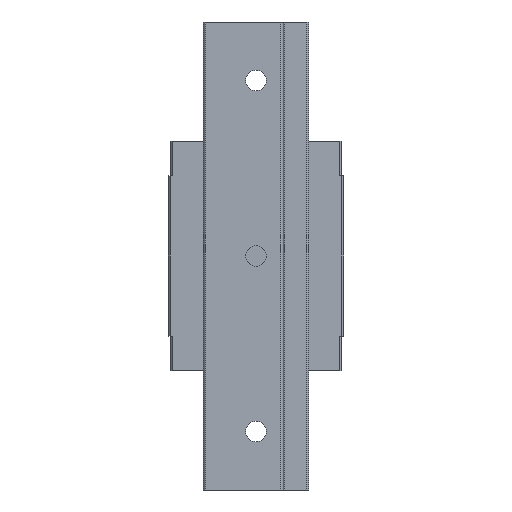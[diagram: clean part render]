
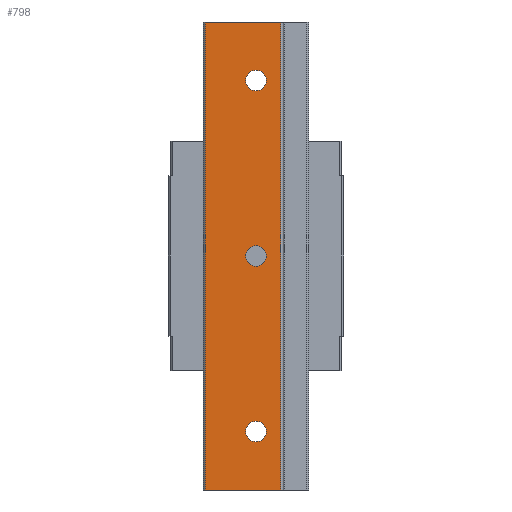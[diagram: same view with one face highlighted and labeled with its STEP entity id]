
A CAD part, front view. The second image highlights one B-rep face of the part: STEP entity #798.
In plain terms, the highlighted planar face has unit normal (0, -1, 0).
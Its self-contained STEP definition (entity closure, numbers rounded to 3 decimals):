
#53 = DIRECTION ( 'NONE',  ( 0., 0., 1. ) ) ;
#59 = VERTEX_POINT ( 'NONE', #3598 ) ;
#89 = DIRECTION ( 'NONE',  ( 0., -1., 0. ) ) ;
#119 = DIRECTION ( 'NONE',  ( 0., -1., 0. ) ) ;
#133 = ORIENTED_EDGE ( 'NONE', *, *, #1054, .F. ) ;
#166 = CIRCLE ( 'NONE', #2338, 1.75 ) ;
#244 = VECTOR ( 'NONE', #3470, 1000. ) ;
#325 = VERTEX_POINT ( 'NONE', #4054 ) ;
#342 = DIRECTION ( 'NONE',  ( 1., 0., 0. ) ) ;
#373 = LINE ( 'NONE', #3844, #244 ) ;
#374 = VERTEX_POINT ( 'NONE', #1986 ) ;
#391 = VERTEX_POINT ( 'NONE', #2128 ) ;
#422 = DIRECTION ( 'NONE',  ( -1., 0., 0. ) ) ;
#424 = EDGE_CURVE ( 'NONE', #818, #3696, #4067, .T. ) ;
#498 = CIRCLE ( 'NONE', #2449, 1.75 ) ;
#571 = PLANE ( 'NONE',  #1534 ) ;
#716 = CARTESIAN_POINT ( 'NONE',  ( 0., 0., 30. ) ) ;
#744 = VERTEX_POINT ( 'NONE', #3972 ) ;
#798 = ADVANCED_FACE ( 'NONE', ( #2284, #936, #884, #4355 ), #571, .F. ) ;
#818 = VERTEX_POINT ( 'NONE', #2790 ) ;
#836 = EDGE_CURVE ( 'NONE', #374, #391, #166, .T. ) ;
#842 = CARTESIAN_POINT ( 'NONE',  ( 0., 0., 30. ) ) ;
#884 = FACE_BOUND ( 'NONE', #2967, .T. ) ;
#910 = EDGE_LOOP ( 'NONE', ( #3300, #3179 ) ) ;
#922 = AXIS2_PLACEMENT_3D ( 'NONE', #842, #3581, #3950 ) ;
#936 = FACE_BOUND ( 'NONE', #910, .T. ) ;
#1010 = ORIENTED_EDGE ( 'NONE', *, *, #4492, .T. ) ;
#1054 = EDGE_CURVE ( 'NONE', #325, #59, #2459, .T. ) ;
#1124 = CIRCLE ( 'NONE', #3507, 1.75 ) ;
#1222 = DIRECTION ( 'NONE',  ( 0., 0., -1. ) ) ;
#1253 = CARTESIAN_POINT ( 'NONE',  ( 0., 0., -28.25 ) ) ;
#1376 = EDGE_CURVE ( 'NONE', #3696, #818, #4252, .T. ) ;
#1448 = DIRECTION ( 'NONE',  ( 0., 0., -1. ) ) ;
#1451 = DIRECTION ( 'NONE',  ( 0., 0., -1. ) ) ;
#1534 = AXIS2_PLACEMENT_3D ( 'NONE', #3739, #4419, #342 ) ;
#1566 = ORIENTED_EDGE ( 'NONE', *, *, #3365, .F. ) ;
#1679 = VECTOR ( 'NONE', #422, 1000. ) ;
#1732 = CARTESIAN_POINT ( 'NONE',  ( 4.2, 0., 40. ) ) ;
#1769 = LINE ( 'NONE', #2763, #4497 ) ;
#1782 = LINE ( 'NONE', #1732, #2475 ) ;
#1911 = CARTESIAN_POINT ( 'NONE',  ( 0., 0., -31.75 ) ) ;
#1948 = AXIS2_PLACEMENT_3D ( 'NONE', #2603, #119, #2556 ) ;
#1986 = CARTESIAN_POINT ( 'NONE',  ( 0., 0., 1.75 ) ) ;
#2069 = ORIENTED_EDGE ( 'NONE', *, *, #3830, .F. ) ;
#2095 = EDGE_CURVE ( 'NONE', #2285, #3670, #1124, .T. ) ;
#2128 = CARTESIAN_POINT ( 'NONE',  ( 0., 0., -1.75 ) ) ;
#2169 = ORIENTED_EDGE ( 'NONE', *, *, #2095, .F. ) ;
#2284 = FACE_BOUND ( 'NONE', #2313, .T. ) ;
#2285 = VERTEX_POINT ( 'NONE', #1253 ) ;
#2313 = EDGE_LOOP ( 'NONE', ( #1566, #2169 ) ) ;
#2338 = AXIS2_PLACEMENT_3D ( 'NONE', #3174, #2877, #3506 ) ;
#2359 = EDGE_LOOP ( 'NONE', ( #1010, #4487, #133, #2069 ) ) ;
#2449 = AXIS2_PLACEMENT_3D ( 'NONE', #2496, #3884, #1222 ) ;
#2459 = LINE ( 'NONE', #3139, #1679 ) ;
#2475 = VECTOR ( 'NONE', #1448, 1000. ) ;
#2496 = CARTESIAN_POINT ( 'NONE',  ( 0., 0., 0. ) ) ;
#2526 = CARTESIAN_POINT ( 'NONE',  ( 0., 0., -30. ) ) ;
#2556 = DIRECTION ( 'NONE',  ( 0., 0., -1. ) ) ;
#2603 = CARTESIAN_POINT ( 'NONE',  ( 0., 0., -30. ) ) ;
#2763 = CARTESIAN_POINT ( 'NONE',  ( -8.7, 0., 40. ) ) ;
#2767 = EDGE_CURVE ( 'NONE', #391, #374, #498, .T. ) ;
#2790 = CARTESIAN_POINT ( 'NONE',  ( 0., 0., 28.25 ) ) ;
#2877 = DIRECTION ( 'NONE',  ( 0., -1., 0. ) ) ;
#2967 = EDGE_LOOP ( 'NONE', ( #3951, #3924 ) ) ;
#3139 = CARTESIAN_POINT ( 'NONE',  ( 4.5, 0., -40. ) ) ;
#3158 = DIRECTION ( 'NONE',  ( 0., -1., 0. ) ) ;
#3174 = CARTESIAN_POINT ( 'NONE',  ( 0., 0., 0. ) ) ;
#3179 = ORIENTED_EDGE ( 'NONE', *, *, #836, .F. ) ;
#3300 = ORIENTED_EDGE ( 'NONE', *, *, #2767, .F. ) ;
#3365 = EDGE_CURVE ( 'NONE', #3670, #2285, #3405, .T. ) ;
#3405 = CIRCLE ( 'NONE', #1948, 1.75 ) ;
#3451 = EDGE_CURVE ( 'NONE', #59, #744, #1769, .T. ) ;
#3470 = DIRECTION ( 'NONE',  ( -1., 0., 0. ) ) ;
#3506 = DIRECTION ( 'NONE',  ( 0., 0., -1. ) ) ;
#3507 = AXIS2_PLACEMENT_3D ( 'NONE', #2526, #89, #1451 ) ;
#3581 = DIRECTION ( 'NONE',  ( 0., -1., 0. ) ) ;
#3598 = CARTESIAN_POINT ( 'NONE',  ( -8.7, 0., -40. ) ) ;
#3634 = VERTEX_POINT ( 'NONE', #3897 ) ;
#3670 = VERTEX_POINT ( 'NONE', #1911 ) ;
#3696 = VERTEX_POINT ( 'NONE', #3986 ) ;
#3739 = CARTESIAN_POINT ( 'NONE',  ( -9., 0., 40. ) ) ;
#3830 = EDGE_CURVE ( 'NONE', #3634, #325, #1782, .T. ) ;
#3844 = CARTESIAN_POINT ( 'NONE',  ( 4.5, 0., 40. ) ) ;
#3884 = DIRECTION ( 'NONE',  ( 0., -1., 0. ) ) ;
#3897 = CARTESIAN_POINT ( 'NONE',  ( 4.2, 0., 40. ) ) ;
#3924 = ORIENTED_EDGE ( 'NONE', *, *, #1376, .F. ) ;
#3950 = DIRECTION ( 'NONE',  ( 0., 0., -1. ) ) ;
#3951 = ORIENTED_EDGE ( 'NONE', *, *, #424, .F. ) ;
#3972 = CARTESIAN_POINT ( 'NONE',  ( -8.7, 0., 40. ) ) ;
#3986 = CARTESIAN_POINT ( 'NONE',  ( 0., 0., 31.75 ) ) ;
#4054 = CARTESIAN_POINT ( 'NONE',  ( 4.2, 0., -40. ) ) ;
#4067 = CIRCLE ( 'NONE', #4351, 1.75 ) ;
#4175 = DIRECTION ( 'NONE',  ( 0., 0., -1. ) ) ;
#4252 = CIRCLE ( 'NONE', #922, 1.75 ) ;
#4351 = AXIS2_PLACEMENT_3D ( 'NONE', #716, #3158, #4175 ) ;
#4355 = FACE_OUTER_BOUND ( 'NONE', #2359, .T. ) ;
#4419 = DIRECTION ( 'NONE',  ( 0., 1., 0. ) ) ;
#4487 = ORIENTED_EDGE ( 'NONE', *, *, #3451, .F. ) ;
#4492 = EDGE_CURVE ( 'NONE', #3634, #744, #373, .T. ) ;
#4497 = VECTOR ( 'NONE', #53, 1000. ) ;
